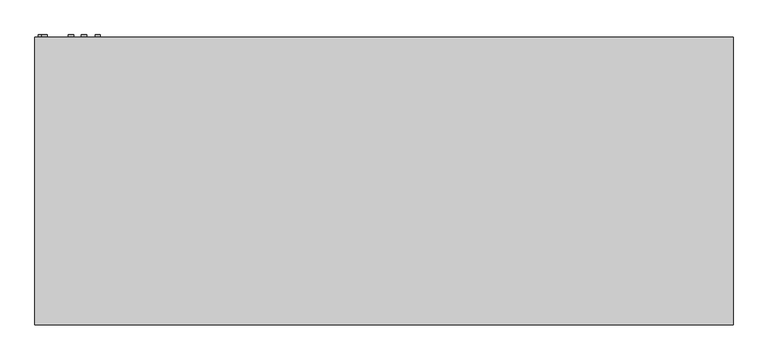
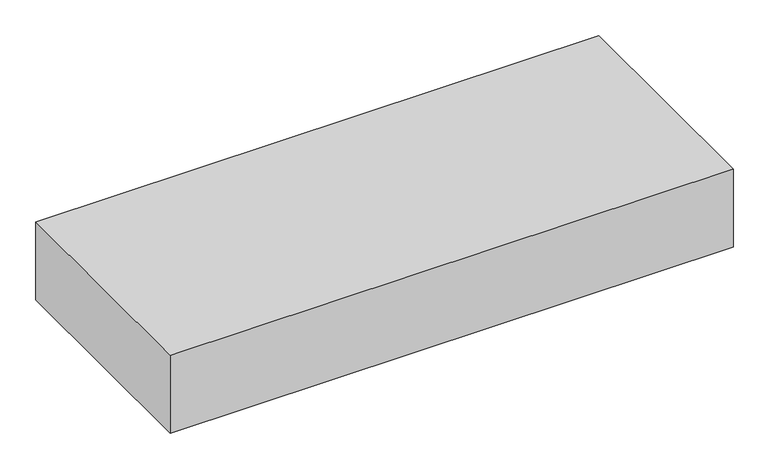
"""IFC4 building model written with IfcOpenShell, lengths in millimetres: proxy geometry, Exposed_Horizontal_Fan_Coil_Unit_-_42CGB_-_CARRIER_-_4-Pipe_BS-BR_LH_2022 : Size 12 - 277v/60Hz/1Ph - 4/1 Coil."""

import ifcopenshell
import ifcopenshell.guid

model = None  # the IFC model being written
_history = None  # IfcOwnerHistory: only IFC2X3 demands one
_inside = {}  # id of a spatial element -> (the spatial element, [elements in it])
_under = {}  # id of a project, library or spatial element -> (it, [spatial elements below it])
_declared = {}  # id of a project -> (the project, [libraries it declares])
_typed = {}  # id of a type object -> (the type object, [elements of that type])
_made_of = {}  # id of a material, layer set ... -> (it, [elements and type objects made of it])


def new_model(schema):
    """Start an empty IFC model of exactly this schema.

    Asked for "IFC4X3", IfcOpenShell would pick the latest addendum, in which some entities
    have other attributes; the version numbers below select the first issue.
    IFC2X3 requires an IfcOwnerHistory on every rooted entity: one is made here for all.
    """
    global model, _history
    if schema == "IFC4X3":
        model = ifcopenshell.file(schema_version=(4, 3, 0, 0))
    else:
        model = ifcopenshell.file(schema=schema)
    _inside.clear()
    _under.clear()
    _declared.clear()
    _typed.clear()
    _made_of.clear()
    _history = None
    if model.schema == "IFC2X3":
        org = make("IfcOrganization", Name="unknown")
        user = make(
            "IfcPersonAndOrganization",
            ThePerson=make("IfcPerson", FamilyName="unknown"),
            TheOrganization=org,
        )
        app = make(
            "IfcApplication",
            ApplicationDeveloper=org,
            Version="unknown",
            ApplicationFullName="unknown",
            ApplicationIdentifier="unknown",
        )
        _history = make(
            "IfcOwnerHistory",
            OwningUser=user,
            OwningApplication=app,
            ChangeAction="ADDED",
            CreationDate=0,
        )
    return model


def make(cls, **values):
    """One entity of the class cls with the attributes given. An attribute that is None is left unset."""
    return model.create_entity(
        cls, **{name: value for name, value in values.items() if value is not None}
    )


def rooted(cls, **values):
    """An entity with a GlobalId (a new one), such as an element, a storey or a relation."""
    return make(cls, GlobalId=ifcopenshell.guid.new(), OwnerHistory=_history, **values)


def si_unit(unit_type, name, prefix=None):
    """IfcSIUnit, for example si_unit("LENGTHUNIT", "METRE", prefix="MILLI")."""
    return make("IfcSIUnit", UnitType=unit_type, Prefix=prefix, Name=name)


def assignment(units):
    """IfcUnitAssignment: the units of a project."""
    return None if units is None else make("IfcUnitAssignment", Units=units)


def point(xyz):
    """IfcCartesianPoint."""
    return None if xyz is None else make("IfcCartesianPoint", Coordinates=xyz)


def direction(xyz):
    """IfcDirection."""
    return None if xyz is None else make("IfcDirection", DirectionRatios=xyz)


def frame(location, z_axis=None, x_axis=None):
    """IfcAxis2Placement3D, a coordinate frame: its origin and axes. An axis left out is left unset."""
    return make(
        "IfcAxis2Placement3D",
        Location=point(location),
        Axis=direction(z_axis),
        RefDirection=direction(x_axis),
    )


def frame_2d(location, x_axis=None):
    """IfcAxis2Placement2D, a coordinate frame in the plane: its origin and x axis."""
    return make(
        "IfcAxis2Placement2D", Location=point(location), RefDirection=direction(x_axis)
    )


def origin():
    """The frame at (0, 0, 0) with its axes left unset."""
    return frame((0.0, 0.0, 0.0))


def place(relative_to, where):
    """IfcLocalPlacement: puts the frame where relative to a parent placement (None: the world)."""
    return make(
        "IfcLocalPlacement", PlacementRelTo=relative_to, RelativePlacement=where
    )


def context(
    kind, dimensions, precision=None, world=None, true_north=None, identifier=None
):
    """IfcGeometricRepresentationContext, for example the 3D "Model" context."""
    return make(
        "IfcGeometricRepresentationContext",
        ContextIdentifier=identifier,
        ContextType=kind,
        CoordinateSpaceDimension=dimensions,
        Precision=precision,
        WorldCoordinateSystem=world,
        TrueNorth=true_north,
    )


def project(units=None, contexts=None):
    """IfcProject with its units and contexts."""
    return rooted(
        "IfcProject",
        Name="project",
        RepresentationContexts=contexts,
        UnitsInContext=assignment(units),
    )


def spatial(cls, under=None, at=None, **own):
    """A site, building, storey or space (cls), placed at a placement, below another one or the project."""
    s = rooted(cls, ObjectPlacement=at, **own)
    if under is not None:
        _under.setdefault(under.id(), (under, []))[1].append(s)
    return s


def polyline(points):
    """IfcPolyline through the points."""
    return make("IfcPolyline", Points=[point(p) for p in points])


def circle_curve(where, radius):
    """IfcCircle in the frame where."""
    return make("IfcCircle", Position=where, Radius=radius)


def trimmed(basis, trim1, trim2, sense, master):
    """IfcTrimmedCurve: the piece of a basis curve between two trims."""
    return make(
        "IfcTrimmedCurve",
        BasisCurve=basis,
        Trim1=trim1,
        Trim2=trim2,
        SenseAgreement=sense,
        MasterRepresentation=master,
    )


def segment(curve, same_sense, transition):
    """IfcCompositeCurveSegment."""
    return make(
        "IfcCompositeCurveSegment",
        Transition=transition,
        SameSense=same_sense,
        ParentCurve=curve,
    )


def composite_curve(segments, self_intersect=None):
    """IfcCompositeCurve: segments joined end to end."""
    return make("IfcCompositeCurve", Segments=segments, SelfIntersect=self_intersect)


def outline(outer, holes=None, kind="AREA"):
    """IfcArbitraryClosedProfileDef: a profile drawn as a closed curve; with holes, ...WithVoids."""
    if holes is None:
        return make("IfcArbitraryClosedProfileDef", ProfileType=kind, OuterCurve=outer)
    return make(
        "IfcArbitraryProfileDefWithVoids",
        ProfileType=kind,
        OuterCurve=outer,
        InnerCurves=holes,
    )


def extrude(swept, where, along, depth):
    """IfcExtrudedAreaSolid: the profile swept, set in the frame where, extruded along a direction by depth."""
    return make(
        "IfcExtrudedAreaSolid",
        SweptArea=swept,
        Position=where,
        ExtrudedDirection=direction(along),
        Depth=depth,
    )


def shape(context_of_items, identifier, shape_type, items):
    """IfcShapeRepresentation: the items that make up one representation, for example the "Body"."""
    return make(
        "IfcShapeRepresentation",
        ContextOfItems=context_of_items,
        RepresentationIdentifier=identifier,
        RepresentationType=shape_type,
        Items=items,
    )


def source(mapping_origin, context_of_items, identifier, shape_type, items):
    """IfcRepresentationMap: a shape defined once, which mapped items show again and again."""
    return make(
        "IfcRepresentationMap",
        MappingOrigin=mapping_origin,
        MappedRepresentation=shape(context_of_items, identifier, shape_type, items),
    )


def transform(
    local_origin,
    x_axis=None,
    y_axis=None,
    z_axis=None,
    scale=None,
    scale2=None,
    scale3=None,
    uniform=True,
):
    """IfcCartesianTransformationOperator3D, or its non-uniform kind. x_axis, y_axis, z_axis: its Axis1, 2, 3."""
    if uniform:
        return make(
            "IfcCartesianTransformationOperator3D",
            Axis1=direction(x_axis),
            Axis2=direction(y_axis),
            LocalOrigin=point(local_origin),
            Scale=scale,
            Axis3=direction(z_axis),
        )
    return make(
        "IfcCartesianTransformationOperator3DnonUniform",
        Axis1=direction(x_axis),
        Axis2=direction(y_axis),
        LocalOrigin=point(local_origin),
        Scale=scale,
        Axis3=direction(z_axis),
        Scale2=scale2,
        Scale3=scale3,
    )


def mapped(mapping_source, mapping_target):
    """IfcMappedItem: shows the shape of a source again, moved by a transform."""
    return make(
        "IfcMappedItem", MappingSource=mapping_source, MappingTarget=mapping_target
    )


def made_of(thing, what):
    """Note that an element or type object is made of a material, layer set ...; save() writes the relation."""
    if what is not None:
        _made_of.setdefault(what.id(), (what, []))[1].append(thing)
    return thing


def element(
    cls,
    number,
    at=None,
    inside=None,
    cuts=None,
    type_object=None,
    material=None,
    context=None,
    identifier="Body",
    shape_type=None,
    held_by="IfcProductDefinitionShape",
    body=None,
    shapes=None,
    **own,
):
    """One element of the class cls, such as IfcWall. Its Tag is "e" and its number.

    at: its placement. inside: the storey or other place that contains it. cuts: it is an
    opening in that element (IfcRelVoidsElement). A single representation is given by context,
    identifier, shape_type and body (its items); several are given by shapes. held_by: the class
    of the entity that holds the representations. save() writes the other relations.
    """
    e = rooted(cls, Tag="e%d" % number, ObjectPlacement=at, **own)
    if body is not None:
        shapes = [shape(context, identifier, shape_type, body)]
    if shapes is not None:
        e.Representation = make(held_by, Representations=shapes)
    if inside is not None:
        _inside.setdefault(inside.id(), (inside, []))[1].append(e)
    if cuts is not None:
        rooted(
            "IfcRelVoidsElement", RelatingBuildingElement=cuts, RelatedOpeningElement=e
        )
    if type_object is not None:
        _typed.setdefault(type_object.id(), (type_object, []))[1].append(e)
    return made_of(e, material)


def aggregate(whole, parts):
    """IfcRelAggregates: a whole, such as a stair, and the parts it consists of."""
    return rooted("IfcRelAggregates", RelatingObject=whole, RelatedObjects=parts)


def save(model, path):
    """Write the relations noted so far, then the file.

    IfcRelAggregates (storeys below a building ...), IfcRelContainedInSpatialStructure (elements
    in a storey), IfcRelDefinesByType, IfcRelAssociatesMaterial and IfcRelDeclares: one each for
    every whole, place, type object, material and project.
    """
    for whole, parts in _under.values():
        aggregate(whole, parts)
    for where, things in _inside.values():
        rooted(
            "IfcRelContainedInSpatialStructure",
            RelatedElements=things,
            RelatingStructure=where,
        )
    for kind, things in _typed.values():
        rooted("IfcRelDefinesByType", RelatedObjects=things, RelatingType=kind)
    for what, things in _made_of.values():
        rooted("IfcRelAssociatesMaterial", RelatedObjects=things, RelatingMaterial=what)
    for by, libraries in _declared.values():
        rooted("IfcRelDeclares", RelatingContext=by, RelatedDefinitions=libraries)
    model.write(path)


def mechanical_equipment_812de0b3(model_context):
    return source(origin(), model_context, "Body", "SweptSolid", [
        extrude(outline(polyline([(925.5125, -433.3875), (925.5125, -604.8375), (-620.7125, -604.8375), (-620.7125, -433.3875), (925.5125, -433.3875)])), frame((0.0, 0.0, -311.15), z_axis=(0.0, 0.0, 1.0), x_axis=(1.0, 0.0, 0.0)), (0.0, 0.0, 1.0), 6.35),
        extrude(outline(composite_curve([segment(trimmed(circle_curve(frame_2d((-261.434158, -870.1546393)), 9.525), [point((-261.434158, -860.6296393))], [point((-261.434158, -879.6796393))], False, "CARTESIAN"), True, "CONTINUOUS"), segment(trimmed(circle_curve(frame_2d((-261.434158, -870.1546393)), 9.525), [point((-261.434158, -879.6796393))], [point((-261.434158, -860.6296393))], False, "CARTESIAN"), True, "CONTINUOUS")], self_intersect=False)), frame((0.0, 192.0875, 0.0), z_axis=(0.0, 1.0, 0.0), x_axis=(0.0, 0.0, 1.0)), (0.0, 0.0, 1.0), 6.35),
        extrude(outline(composite_curve([segment(trimmed(circle_curve(frame_2d((-85.725, -860.425)), 7.9375), [point((-85.725, -852.4875))], [point((-85.725, -868.3625))], False, "CARTESIAN"), True, "CONTINUOUS"), segment(trimmed(circle_curve(frame_2d((-85.725, -860.425)), 7.9375), [point((-85.725, -868.3625))], [point((-85.725, -852.4875))], False, "CARTESIAN"), True, "CONTINUOUS")], self_intersect=False)), frame((0.0, 192.0875, 0.0), z_axis=(0.0, 1.0, 0.0), x_axis=(0.0, 0.0, 1.0)), (0.0, 0.0, 1.0), 6.35),
        extrude(outline(composite_curve([segment(trimmed(circle_curve(frame_2d((-44.45, -781.05)), 7.9375), [point((-44.45, -773.1125))], [point((-44.45, -788.9875))], False, "CARTESIAN"), True, "CONTINUOUS"), segment(trimmed(circle_curve(frame_2d((-44.45, -781.05)), 7.9375), [point((-44.45, -788.9875))], [point((-44.45, -773.1125))], False, "CARTESIAN"), True, "CONTINUOUS")], self_intersect=False)), frame((0.0, 192.0875, 0.0), z_axis=(0.0, 1.0, 0.0), x_axis=(0.0, 0.0, 1.0)), (0.0, 0.0, 1.0), 6.35),
        extrude(outline(composite_curve([segment(trimmed(circle_curve(frame_2d((-95.25, -742.95)), 7.9375), [point((-95.25, -735.0125))], [point((-95.25, -750.8875))], False, "CARTESIAN"), True, "CONTINUOUS"), segment(trimmed(circle_curve(frame_2d((-95.25, -742.95)), 7.9375), [point((-95.25, -750.8875))], [point((-95.25, -735.0125))], False, "CARTESIAN"), True, "CONTINUOUS")], self_intersect=False)), frame((0.0, 192.0875, 0.0), z_axis=(0.0, 1.0, 0.0), x_axis=(0.0, 0.0, 1.0)), (0.0, 0.0, 1.0), 6.35),
        extrude(outline(composite_curve([segment(trimmed(circle_curve(frame_2d((-60.325, -701.675)), 7.9375), [point((-60.325, -693.7375))], [point((-60.325, -709.6125))], False, "CARTESIAN"), True, "CONTINUOUS"), segment(trimmed(circle_curve(frame_2d((-60.325, -701.675)), 7.9375), [point((-60.325, -709.6125))], [point((-60.325, -693.7375))], False, "CARTESIAN"), True, "CONTINUOUS")], self_intersect=False)), frame((0.0, 192.0875, 0.0), z_axis=(0.0, 1.0, 0.0), x_axis=(0.0, 0.0, 1.0)), (0.0, 0.0, 1.0), 6.35),
        extrude(outline(polyline([(-889.0, 192.0875), (1193.8, 192.0875), (1193.8, -668.3375), (-889.0, -668.3375), (-889.0, 192.0875)])), frame((0.0, 0.0, -304.8), z_axis=(0.0, 0.0, 1.0), x_axis=(1.0, 0.0, 0.0)), (0.0, 0.0, 1.0), 304.8),
        extrude(outline(polyline([(952.5, 115.8875), (952.5, -138.1125), (-647.7, -138.1125), (-647.7, 115.8875), (952.5, 115.8875)])), frame((0.0, 0.0, -311.15), z_axis=(0.0, 0.0, 1.0), x_axis=(1.0, 0.0, 0.0)), (0.0, 0.0, 1.0), 6.35),
    ])


if __name__ == "__main__":
    model = new_model("IFC4")
    model_context = context("Model", 3, world=origin())
    ifc_project = project(units=[si_unit("LENGTHUNIT", "METRE", prefix="MILLI")], contexts=[model_context])
    site = spatial("IfcSite", under=ifc_project)
    building = spatial("IfcBuilding", under=site)
    placement = place(None, origin())
    mechanical_equipment_shape = mechanical_equipment_812de0b3(model_context)
    element("IfcBuildingElementProxy", 1, Name="Exposed_Horizontal_Fan_Coil_Unit_-_42CGB_-_CARRIER_-_4-Pipe_BS-BR_LH_2022 : Size 12 - 277v/60Hz/1Ph - 4/1 Coil", ObjectType="Exposed_Horizontal_Fan_Coil_Unit_-_42CGB_-_CARRIER_-_4-Pipe_BS-BR_LH_2022 : Size 12 - 277v/60Hz/1Ph - 4/1 Coil", at=placement, inside=building, context=model_context, shape_type="MappedRepresentation", body=[
        mapped(mechanical_equipment_shape, transform((0.0, 0.0, 0.0), x_axis=(1.0, 0.0, 0.0), y_axis=(0.0, 1.0, 0.0), z_axis=(0.0, 0.0, 1.0))),
    ])
    save(model, "model.ifc")
